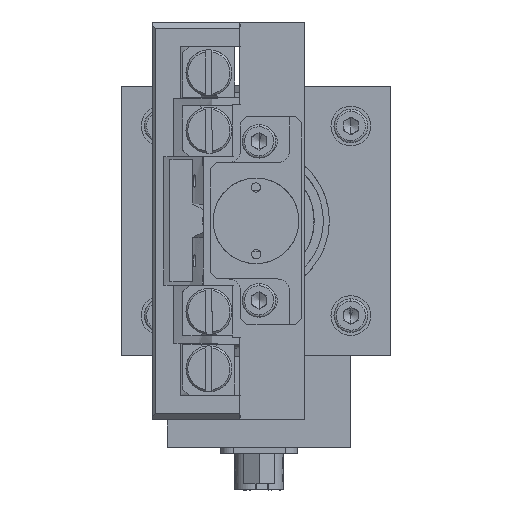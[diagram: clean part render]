
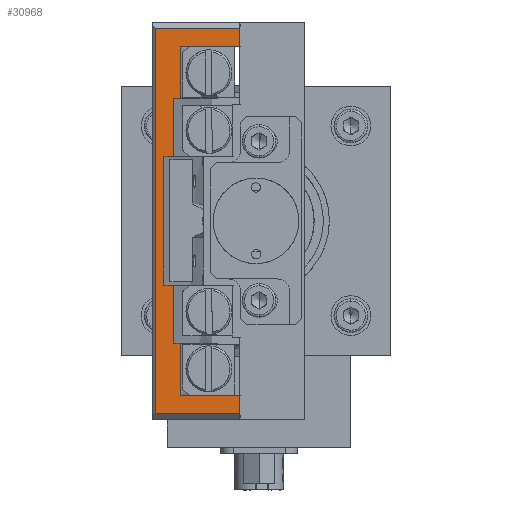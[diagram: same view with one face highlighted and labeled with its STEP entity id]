
A CAD part, left-side view. The second image highlights one B-rep face of the part: STEP entity #30968.
In plain terms, the highlighted planar face has unit normal (1, 0, 0).
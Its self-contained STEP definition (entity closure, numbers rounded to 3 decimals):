
#696 = CARTESIAN_POINT ( 'NONE',  ( -32.5, 25., 32.5 ) ) ;
#700 = PLANE ( 'NONE',  #27503 ) ;
#703 = DIRECTION ( 'NONE',  ( 1., 0., 0. ) ) ;
#704 = DIRECTION ( 'NONE',  ( 0., 1., 0. ) ) ;
#4253 = VERTEX_POINT ( 'NONE', #22436 ) ;
#4254 = VERTEX_POINT ( 'NONE', #22197 ) ;
#4257 = VERTEX_POINT ( 'NONE', #22079 ) ;
#4258 = VERTEX_POINT ( 'NONE', #22203 ) ;
#4260 = VERTEX_POINT ( 'NONE', #22210 ) ;
#4262 = VERTEX_POINT ( 'NONE', #22182 ) ;
#4264 = VERTEX_POINT ( 'NONE', #22092 ) ;
#4268 = VERTEX_POINT ( 'NONE', #22072 ) ;
#4269 = VERTEX_POINT ( 'NONE', #22344 ) ;
#4276 = VERTEX_POINT ( 'NONE', #22287 ) ;
#4282 = VERTEX_POINT ( 'NONE', #22280 ) ;
#4289 = VERTEX_POINT ( 'NONE', #22329 ) ;
#4290 = VERTEX_POINT ( 'NONE', #22399 ) ;
#4291 = VERTEX_POINT ( 'NONE', #22279 ) ;
#4292 = VERTEX_POINT ( 'NONE', #22379 ) ;
#4293 = VERTEX_POINT ( 'NONE', #22172 ) ;
#6193 = EDGE_LOOP ( 'NONE', ( #8471, #8396, #8384, #8383, #8472, #8470, #8469, #8468, #8420, #8503, #8358, #8357, #8502, #8360, #8461, #8460 ) ) ;
#8357 = ORIENTED_EDGE ( 'NONE', *, *, #29592, .T. ) ;
#8358 = ORIENTED_EDGE ( 'NONE', *, *, #29522, .T. ) ;
#8360 = ORIENTED_EDGE ( 'NONE', *, *, #29515, .T. ) ;
#8383 = ORIENTED_EDGE ( 'NONE', *, *, #29622, .T. ) ;
#8384 = ORIENTED_EDGE ( 'NONE', *, *, #29531, .T. ) ;
#8396 = ORIENTED_EDGE ( 'NONE', *, *, #29547, .T. ) ;
#8420 = ORIENTED_EDGE ( 'NONE', *, *, #29524, .T. ) ;
#8460 = ORIENTED_EDGE ( 'NONE', *, *, #29663, .F. ) ;
#8461 = ORIENTED_EDGE ( 'NONE', *, *, #29535, .T. ) ;
#8468 = ORIENTED_EDGE ( 'NONE', *, *, #29665, .T. ) ;
#8469 = ORIENTED_EDGE ( 'NONE', *, *, #29529, .T. ) ;
#8470 = ORIENTED_EDGE ( 'NONE', *, *, #29643, .T. ) ;
#8471 = ORIENTED_EDGE ( 'NONE', *, *, #29566, .F. ) ;
#8472 = ORIENTED_EDGE ( 'NONE', *, *, #29543, .T. ) ;
#8502 = ORIENTED_EDGE ( 'NONE', *, *, #29519, .T. ) ;
#8503 = ORIENTED_EDGE ( 'NONE', *, *, #29626, .T. ) ;
#12480 = DIRECTION ( 'NONE',  ( 0., 1., 0. ) ) ;
#12491 = CARTESIAN_POINT ( 'NONE',  ( -32.5, 25., 20. ) ) ;
#12586 = DIRECTION ( 'NONE',  ( 0., 1., 0. ) ) ;
#12587 = CARTESIAN_POINT ( 'NONE',  ( -32.5, 25., -31.5 ) ) ;
#12636 = DIRECTION ( 'NONE',  ( 0., 1., 0. ) ) ;
#12637 = CARTESIAN_POINT ( 'NONE',  ( -32.5, 25., 28.5 ) ) ;
#12699 = DIRECTION ( 'NONE',  ( 0., 1., 0. ) ) ;
#12711 = CARTESIAN_POINT ( 'NONE',  ( -32.5, 25., 10.5 ) ) ;
#12775 = DIRECTION ( 'NONE',  ( 0., 0., -1. ) ) ;
#12905 = DIRECTION ( 'NONE',  ( 0., -1., 0. ) ) ;
#12907 = CARTESIAN_POINT ( 'NONE',  ( -32.5, 25., -10.5 ) ) ;
#12916 = DIRECTION ( 'NONE',  ( 0., -1., 0. ) ) ;
#12988 = CARTESIAN_POINT ( 'NONE',  ( -32.5, 25., -20. ) ) ;
#12990 = DIRECTION ( 'NONE',  ( 0., -1., 0. ) ) ;
#12997 = CARTESIAN_POINT ( 'NONE',  ( -32.5, 25., -28.5 ) ) ;
#13295 = CARTESIAN_POINT ( 'NONE',  ( -32.5, 21.459, -10.5 ) ) ;
#13392 = CARTESIAN_POINT ( 'NONE',  ( -32.5, 20.377, 20. ) ) ;
#13491 = DIRECTION ( 'NONE',  ( 0., 0., -1. ) ) ;
#13506 = DIRECTION ( 'NONE',  ( 0., 0., -1. ) ) ;
#13573 = CARTESIAN_POINT ( 'NONE',  ( -32.5, 100., 31.5 ) ) ;
#13728 = CARTESIAN_POINT ( 'NONE',  ( -32.5, 10.732, 32.5 ) ) ;
#14317 = DIRECTION ( 'NONE',  ( 0., 1., 0. ) ) ;
#14409 = CARTESIAN_POINT ( 'NONE',  ( -32.5, 20.377, -20. ) ) ;
#14460 = CARTESIAN_POINT ( 'NONE',  ( -32.5, 10.732, 32.5 ) ) ;
#14683 = DIRECTION ( 'NONE',  ( 0., 0., -1. ) ) ;
#14729 = DIRECTION ( 'NONE',  ( 0., 0., -1. ) ) ;
#18390 = FACE_OUTER_BOUND ( 'NONE', #6193, .T. ) ;
#22072 = CARTESIAN_POINT ( 'NONE',  ( -32.5, 20.377, 28.5 ) ) ;
#22079 = CARTESIAN_POINT ( 'NONE',  ( -32.5, 23.084, -10.5 ) ) ;
#22092 = CARTESIAN_POINT ( 'NONE',  ( -32.5, 21.459, -20. ) ) ;
#22172 = CARTESIAN_POINT ( 'NONE',  ( -32.5, 10.732, -28.5 ) ) ;
#22182 = CARTESIAN_POINT ( 'NONE',  ( -32.5, 21.459, 20. ) ) ;
#22197 = CARTESIAN_POINT ( 'NONE',  ( -32.5, 24.5, -31.5 ) ) ;
#22203 = CARTESIAN_POINT ( 'NONE',  ( -32.5, 23.084, 10.5 ) ) ;
#22210 = CARTESIAN_POINT ( 'NONE',  ( -32.5, 21.459, 10.5 ) ) ;
#22279 = CARTESIAN_POINT ( 'NONE',  ( -32.5, 21.459, -10.5 ) ) ;
#22280 = CARTESIAN_POINT ( 'NONE',  ( -32.5, 10.732, 31.5 ) ) ;
#22287 = CARTESIAN_POINT ( 'NONE',  ( -32.5, 20.377, -28.5 ) ) ;
#22329 = CARTESIAN_POINT ( 'NONE',  ( -32.5, 10.732, 28.5 ) ) ;
#22344 = CARTESIAN_POINT ( 'NONE',  ( -32.5, 20.377, 20. ) ) ;
#22379 = CARTESIAN_POINT ( 'NONE',  ( -32.5, 20.377, -20. ) ) ;
#22399 = CARTESIAN_POINT ( 'NONE',  ( -32.5, 10.732, -31.5 ) ) ;
#22436 = CARTESIAN_POINT ( 'NONE',  ( -32.5, 24.5, 31.5 ) ) ;
#23009 = LINE ( 'NONE', #14460, #23022 ) ;
#23012 = VECTOR ( 'NONE', #12480, 1000. ) ;
#23022 = VECTOR ( 'NONE', #12775, 1000. ) ;
#23026 = VECTOR ( 'NONE', #31403, 1000. ) ;
#23063 = LINE ( 'NONE', #31389, #23196 ) ;
#23069 = LINE ( 'NONE', #12637, #23146 ) ;
#23070 = LINE ( 'NONE', #12587, #23267 ) ;
#23073 = VECTOR ( 'NONE', #12905, 1000. ) ;
#23077 = VECTOR ( 'NONE', #12699, 1000. ) ;
#23110 = LINE ( 'NONE', #12907, #23073 ) ;
#23112 = VECTOR ( 'NONE', #14729, 1000. ) ;
#23113 = LINE ( 'NONE', #14409, #23297 ) ;
#23114 = LINE ( 'NONE', #13295, #23112 ) ;
#23115 = LINE ( 'NONE', #13392, #23178 ) ;
#23122 = LINE ( 'NONE', #12711, #23077 ) ;
#23125 = LINE ( 'NONE', #12997, #23245 ) ;
#23127 = LINE ( 'NONE', #13728, #23249 ) ;
#23146 = VECTOR ( 'NONE', #12636, 1000. ) ;
#23163 = LINE ( 'NONE', #31265, #23226 ) ;
#23165 = VECTOR ( 'NONE', #14317, 1000. ) ;
#23178 = VECTOR ( 'NONE', #13491, 1000. ) ;
#23196 = VECTOR ( 'NONE', #31392, 1000. ) ;
#23226 = VECTOR ( 'NONE', #31266, 1000. ) ;
#23243 = LINE ( 'NONE', #12988, #23414 ) ;
#23245 = VECTOR ( 'NONE', #12990, 1000. ) ;
#23249 = VECTOR ( 'NONE', #13506, 1000. ) ;
#23253 = LINE ( 'NONE', #12491, #23012 ) ;
#23267 = VECTOR ( 'NONE', #12586, 1000. ) ;
#23297 = VECTOR ( 'NONE', #14683, 1000. ) ;
#23299 = LINE ( 'NONE', #13573, #23165 ) ;
#23339 = LINE ( 'NONE', #31402, #23026 ) ;
#23414 = VECTOR ( 'NONE', #12916, 1000. ) ;
#27503 = AXIS2_PLACEMENT_3D ( 'NONE', #696, #703, #704 ) ;
#29515 = EDGE_CURVE ( 'NONE', #4293, #4290, #23127, .T. ) ;
#29519 = EDGE_CURVE ( 'NONE', #4276, #4293, #23125, .T. ) ;
#29522 = EDGE_CURVE ( 'NONE', #4264, #4292, #23243, .T. ) ;
#29524 = EDGE_CURVE ( 'NONE', #4257, #4291, #23110, .T. ) ;
#29529 = EDGE_CURVE ( 'NONE', #4260, #4258, #23122, .T. ) ;
#29531 = EDGE_CURVE ( 'NONE', #4289, #4268, #23069, .T. ) ;
#29535 = EDGE_CURVE ( 'NONE', #4290, #4254, #23070, .T. ) ;
#29543 = EDGE_CURVE ( 'NONE', #4269, #4262, #23253, .T. ) ;
#29547 = EDGE_CURVE ( 'NONE', #4282, #4289, #23009, .T. ) ;
#29566 = EDGE_CURVE ( 'NONE', #4282, #4253, #23299, .T. ) ;
#29592 = EDGE_CURVE ( 'NONE', #4292, #4276, #23113, .T. ) ;
#29622 = EDGE_CURVE ( 'NONE', #4268, #4269, #23115, .T. ) ;
#29626 = EDGE_CURVE ( 'NONE', #4291, #4264, #23114, .T. ) ;
#29643 = EDGE_CURVE ( 'NONE', #4262, #4260, #23163, .T. ) ;
#29663 = EDGE_CURVE ( 'NONE', #4253, #4254, #23063, .T. ) ;
#29665 = EDGE_CURVE ( 'NONE', #4258, #4257, #23339, .T. ) ;
#30968 = ADVANCED_FACE ( 'NONE', ( #18390 ), #700, .T. ) ;
#31265 = CARTESIAN_POINT ( 'NONE',  ( -32.5, 21.459, 10.5 ) ) ;
#31266 = DIRECTION ( 'NONE',  ( 0., 0., -1. ) ) ;
#31389 = CARTESIAN_POINT ( 'NONE',  ( -32.5, 24.5, 32.5 ) ) ;
#31392 = DIRECTION ( 'NONE',  ( 0., 0., -1. ) ) ;
#31402 = CARTESIAN_POINT ( 'NONE',  ( -32.5, 23.084, -67.469 ) ) ;
#31403 = DIRECTION ( 'NONE',  ( 0., 0., -1. ) ) ;
